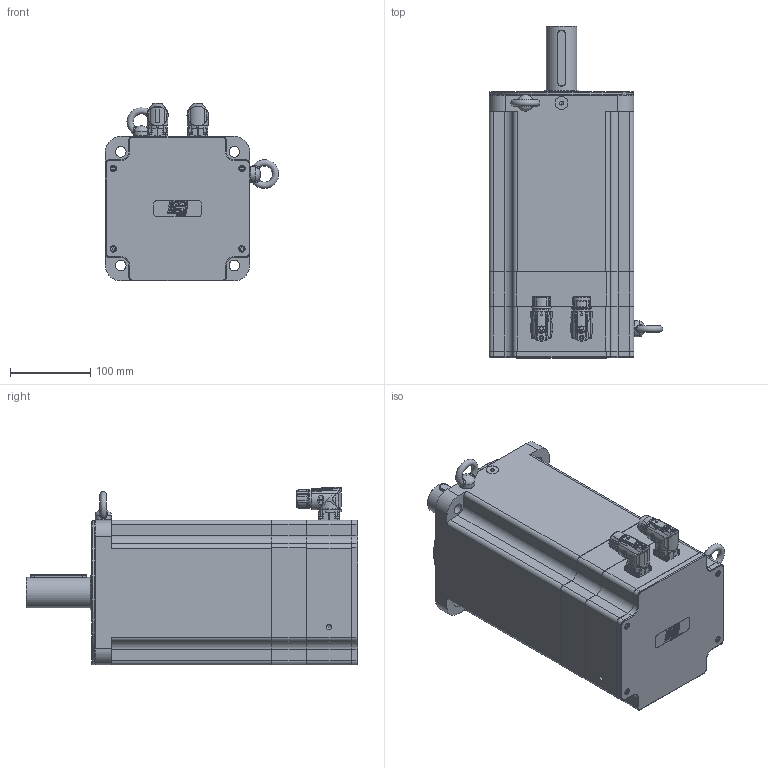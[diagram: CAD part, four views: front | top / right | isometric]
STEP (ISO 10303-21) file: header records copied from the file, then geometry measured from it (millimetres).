
FILE_DESCRIPTION(/* description */ ('Unknown'),/* implementation_level */ '2;1');
FILE_NAME(/* name */ 'TC4-180.7E.X X.X.3.XX.1.X.G2.00.00 Q0B808',/* time_stamp */ '2026-03-10T14:20:46+01:00',/* author */ ('Unknown'),/* organization */ ('Unknown'),/* preprocessor_version */ 'ST-DEVELOPER v19.4',/* originating_system */ 'Solid Edge',/* authorisation */ 'Unknown');
FILE_SCHEMA (('AUTOMOTIVE_DESIGN {1 0 10303 214 3 1 1}'));
Products named in the file (16): Q0B808 7E FRENO VUOTO; 005256003057; 003103040231; 007117000456; 003155002230; Coperchio campana TC4-180; 003003199972; 005113001040; 005119001104; 005911000185; 005911000479; Corpo TC4-180 7E; 005321000010; 005911000180; 003251040631; 007117000454
Assembly tree (33 placements, depth 2):
  Q0B808 7E FRENO VUOTO
    005256003057
    003103040231
    007117000456
    003155002230
    Coperchio campana TC4-180
    003003199972
    005113001040
    005119001104
    005911000185  x8
    005911000479  x8
    Corpo TC4-180 7E
    005321000010  x2
    005911000180  x4
    003251040631
    007117000454
Bounding box: 215.95 x 413 x 221.5 mm (x, y, z)
Volume: 4052797.2 mm3; surface area: 917137.8 mm2
Topology: 34 solids, 60 shells, 2594 faces, 6862 edges, 4470 vertices
Faces by surface type: plane 1069, cylinder 696, cone 333, bspline 290, torus 147, sphere 59
Full cylindrical faces by diameter (mm): 0.5 x1, 1 x21, 1.2 x17, 1.4 x4, 2 x4, 2.013 x16, 2.5 x8, 2.8 x4, 3 x12, 3.242 x12, 4 x5, 4.134 x16, 4.2 x8, 4.5 x10, 4.7 x8, 4.917 x8, 5 x8, 5.5 x10, 5.8 x1, 5.9 x2, 6.647 x14, 6.8 x1, 7 x6, 8 x8, 9 x4, 10 x3, 10.106 x2, 14 x4, 15.2 x1, 16 x1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
Entity records: 92238 total; most frequent: CARTESIAN_POINT 24093, ORIENTED_EDGE 10902, DIRECTION 10869, EDGE_CURVE 5659, AXIS2_PLACEMENT_3D 4200, VERTEX_POINT 3967, FACE_BOUND 3073, EDGE_LOOP 3039
